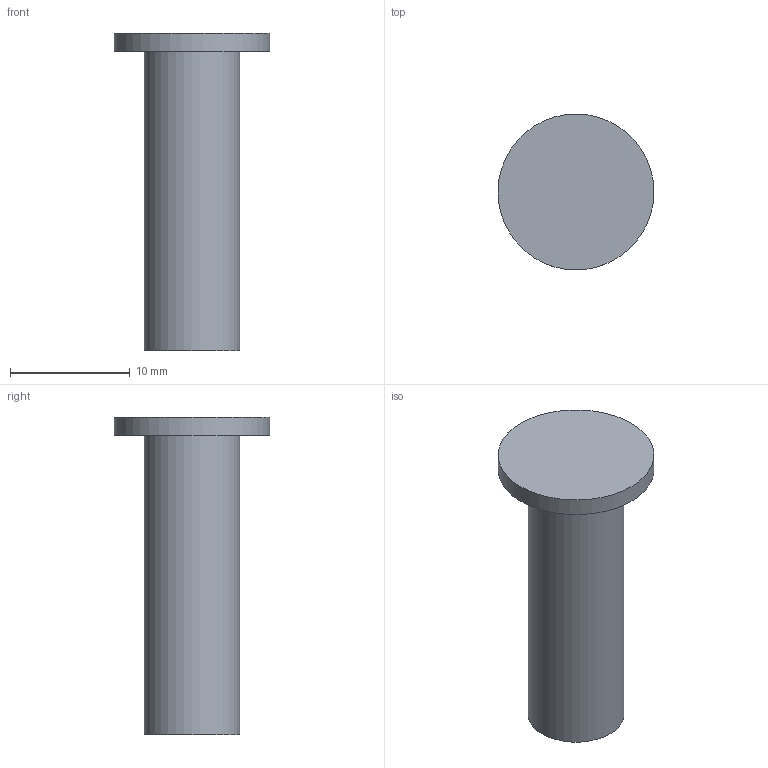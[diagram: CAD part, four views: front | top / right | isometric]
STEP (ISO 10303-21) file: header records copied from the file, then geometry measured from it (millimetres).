
FILE_DESCRIPTION((''),'2;1');
FILE_NAME('C:\Program Files\Autodesk\Inventor 2008\Compatibility\Support\ECSS-08-25.stp','2015-09-08T14:34:19',('AMS8'),(''),'Autodesk Inventor 2008','Autodesk Inventor 2008','');
FILE_SCHEMA(('AUTOMOTIVE_DESIGN { 1 0 10303 214 1 1 1 1 }'));
Length unit declared in the file: millimetre
Products named in the file (1): ECSS-08-25
Bounding box: 13 x 13 x 26.5 mm (x, y, z)
Volume: 1456 mm3; surface area: 955.3 mm2
Topology: 1 solids, 1 shells, 5 faces, 6 edges, 4 vertices
Faces by surface type: plane 3, cylinder 1, bspline 1
Full cylindrical faces by diameter (mm): 8 x1
Entity records: 206 total; most frequent: CARTESIAN_POINT 91, DIRECTION 15, ORIENTED_EDGE 10, AXIS2_PLACEMENT_3D 7, EDGE_LOOP 7, STYLED_ITEM 6, EDGE_CURVE 5, FACE_OUTER_BOUND 5
